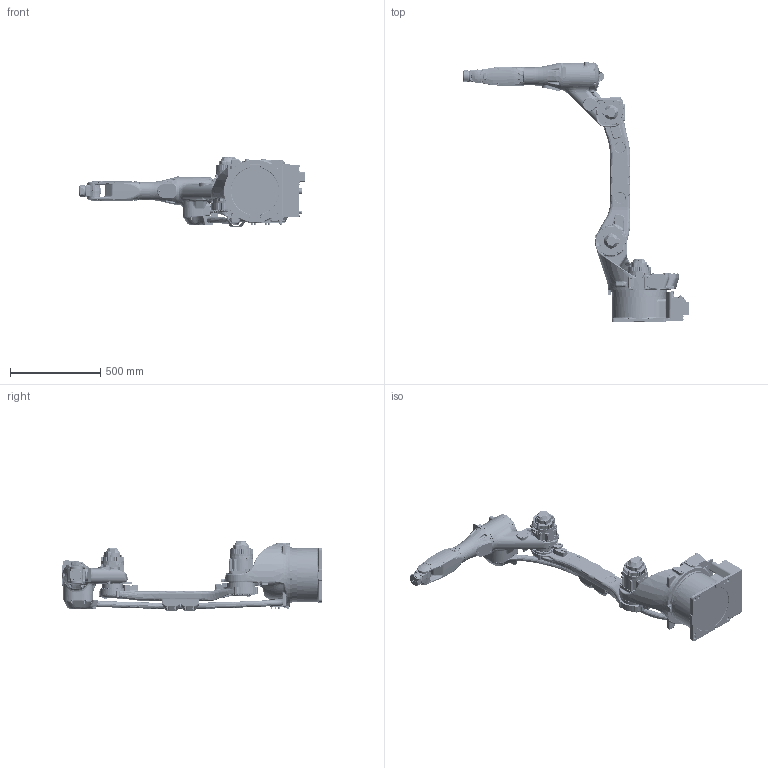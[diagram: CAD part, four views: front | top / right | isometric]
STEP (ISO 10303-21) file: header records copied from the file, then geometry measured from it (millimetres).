
FILE_DESCRIPTION(/* description */ (''),/* implementation_level */ '2;1');
FILE_NAME(/* name */ 'GP8L-EM.stp',/* time_stamp */ '2021-10-15T19:00:00+02:00',/* author */ (''),/* organization */ (''),/* preprocessor_version */ 'ST-DEVELOPER v16.7',/* originating_system */ 'SIEMENS PLM Software NX 12.0',/* authorisation */ '');
FILE_SCHEMA (('AUTOMOTIVE_DESIGN { 1 0 10303 214 3 1 1 1 }'));
Products named in the file (9): T_VIEW_06VXL8-A00; B_VIEW_06VXL8-A00; R_VIEW_06VXL8-A00; SPACER_VIEW_06VXL8-A00; U_VIEW_06VXL8-A00; L_VIEW_06VXL8-A00; S_VIEW_06VXL8-A00; BASE_VIEW_06VXL8-A00; GP8L
Assembly tree (8 placements, depth 2):
  GP8L
    BASE_VIEW_06VXL8-A00
    S_VIEW_06VXL8-A00
    L_VIEW_06VXL8-A00
    U_VIEW_06VXL8-A00
    SPACER_VIEW_06VXL8-A00
    R_VIEW_06VXL8-A00
    B_VIEW_06VXL8-A00
    T_VIEW_06VXL8-A00
Bounding box: 1249.85 x 1445 x 383.5 mm (x, y, z)
Volume: 51154706 mm3; surface area: 2600907.7 mm2
Topology: 8 solids, 14 shells, 9197 faces, 23329 edges, 14498 vertices
Faces by surface type: cylinder 3295, plane 2963, bspline 1827, torus 533, cone 484, sphere 94, revolution 1
Entity records: 428542 total; most frequent: CARTESIAN_POINT 196562, ORIENTED_EDGE 46506, DIRECTION 42351, EDGE_CURVE 23253, AXIS2_PLACEMENT_3D 16810, VERTEX_POINT 14498, EDGE_LOOP 9691, CIRCLE 9348
